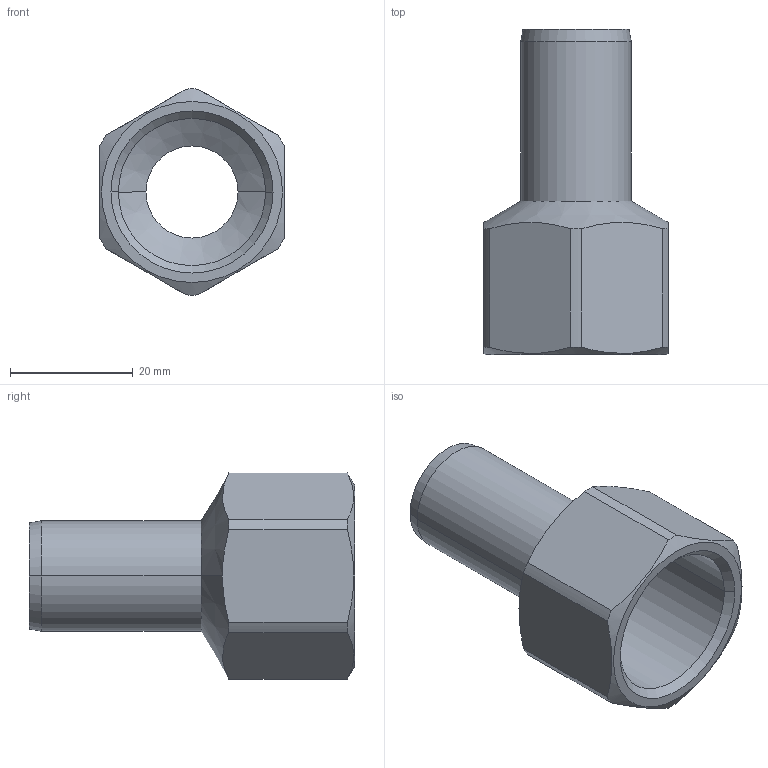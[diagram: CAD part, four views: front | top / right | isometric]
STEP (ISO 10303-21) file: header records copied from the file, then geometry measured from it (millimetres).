
FILE_DESCRIPTION(('OneSpaceDesigner STEP Export'),'2;1');
FILE_NAME('C1433 18xRp3-4.stp','2010-06-15T16:42:31',(''),(''),'OneSpace Designer STEP processor for AP214 (Solid Model)','OneSpace Modeling 15.00A 14-Mar-2007 (C) CoCreate Software GmbH','');
FILE_SCHEMA(('AUTOMOTIVE_DESIGN { 1 0 10303 214 1 1 1 1 }'));
Length unit declared in the file: millimetre
Products named in the file (2): C1433_18xRp3-4
Assembly tree (1 placements, depth 2):
  C1433_18xRp3-4
    C1433_18xRp3-4
Bounding box: 30 x 53 x 33.59 mm (x, y, z)
Volume: 10098.3 mm3; surface area: 7887.8 mm2
Topology: 1 solids, 1 shells, 30 faces, 74 edges, 46 vertices
Faces by surface type: cylinder 12, cone 10, plane 8
Entity records: 1667 total; most frequent: CARTESIAN_POINT 1026, ORIENTED_EDGE 148, DIRECTION 88, EDGE_CURVE 74, VERTEX_POINT 46, EDGE_LOOP 32, AXIS2_PLACEMENT_3D 30, FACE_OUTER_BOUND 30
